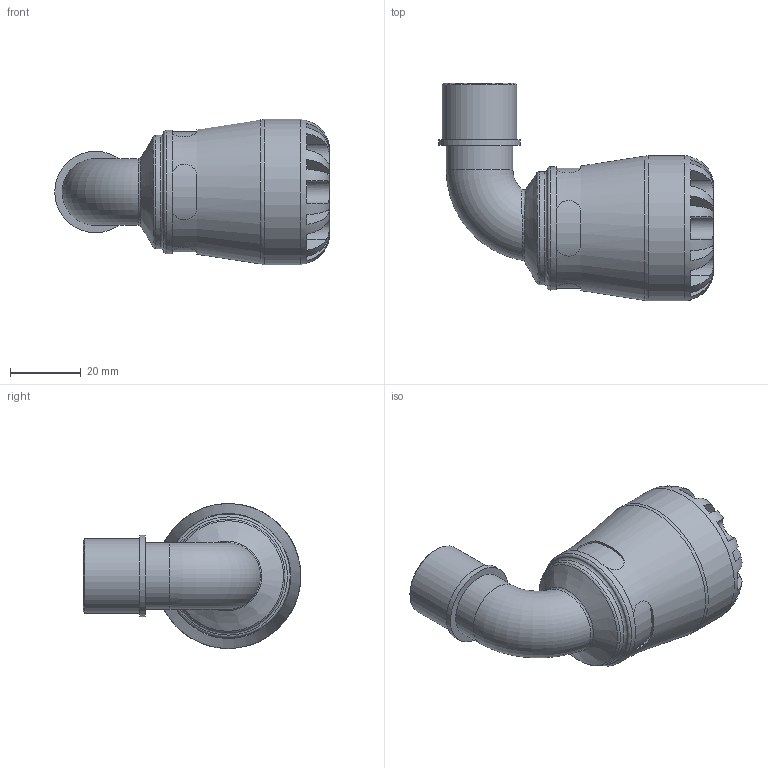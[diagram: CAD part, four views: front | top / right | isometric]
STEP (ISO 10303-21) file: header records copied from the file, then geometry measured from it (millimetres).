
FILE_DESCRIPTION(/* description */ ('PLASSON 90° ELBOW WITH THREADED MALE OFFTAKE 20X1/2" SERIES 1'),/* implementation_level */ '2;1');
FILE_NAME(/* name */ 'C:\Dropbox\KIMPROJECTS-Inventor\99-16-3568-Processing\1085\108500020005_198500020005.ipt.stp',/* time_stamp */ '2017-01-22T11:49:11+02:00',/* author */ ('KIM'),/* organization */ (''),/* preprocessor_version */ 'ST-DEVELOPER v15.6',/* originating_system */ 'Autodesk Inventor 2015',/* authorisation */ '');
FILE_SCHEMA (('AUTOMOTIVE_DESIGN { 1 0 10303 214 3 1 1 }'));
Length unit declared in the file: millimetre
Products named in the file (1): 108500020005_198500020005
Bounding box: 77.53 x 61.5 x 41 mm (x, y, z)
Volume: 45611.7 mm3; surface area: 17148.8 mm2
Topology: 1 solids, 1 shells, 110 faces, 279 edges, 174 vertices
Faces by surface type: plane 61, cylinder 37, torus 7, bspline 3, cone 2
Full cylindrical faces by diameter (mm): 14.668 x2, 18.86 x1, 20 x1, 20.955 x1, 23.05 x1, 31.98 x1, 34.85 x1, 41 x1
Entity records: 4355 total; most frequent: CARTESIAN_POINT 1763, ORIENTED_EDGE 510, DIRECTION 493, EDGE_CURVE 255, AXIS2_PLACEMENT_3D 206, VERTEX_POINT 168, EDGE_LOOP 133, STYLED_ITEM 111
